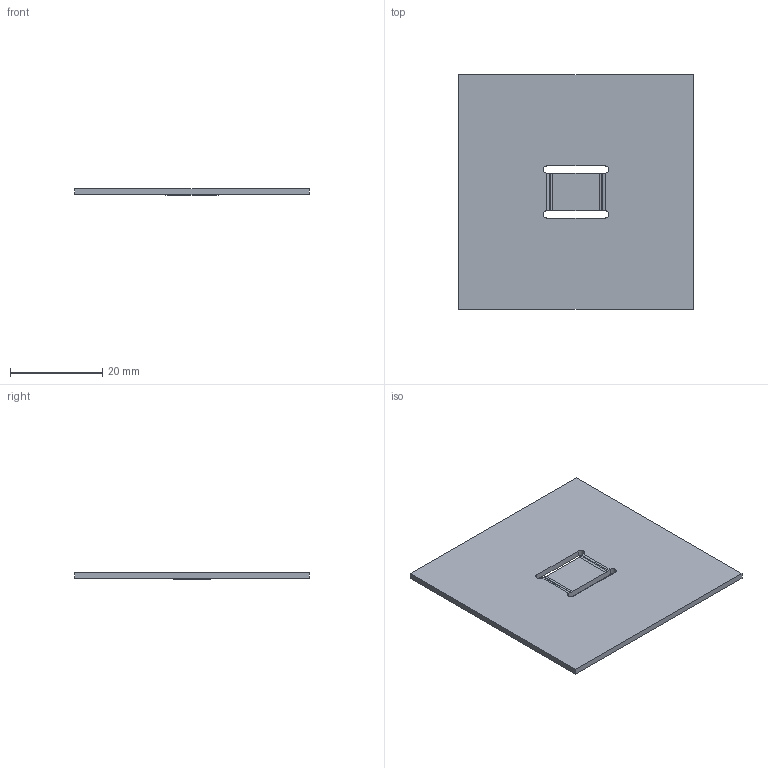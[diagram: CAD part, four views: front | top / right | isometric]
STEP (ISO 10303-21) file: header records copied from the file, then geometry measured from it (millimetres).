
FILE_DESCRIPTION((''),'1');
FILE_NAME('C:/Users/robertnolte/Desktop/WT# 824996-70.stp','2012-03-27T23:36:20',(''),(''),'Spatial Interop R21 SP3','Kubotek KeyCreator 2011 V10.5.0 (24766)',' ');
FILE_SCHEMA(('CONFIG_CONTROL_DESIGN'));
Length unit declared in the file: inch
Products named in the file (1): 1
Bounding box: 50.8 x 50.8 x 1.47 mm (x, y, z)
Volume: 3222.1 mm3; surface area: 5409.4 mm2
Topology: 1 solids, 1 shells, 28 faces, 76 edges, 48 vertices
Faces by surface type: plane 16, cylinder 12
Entity records: 932 total; most frequent: DIRECTION 158, CARTESIAN_POINT 153, ORIENTED_EDGE 152, EDGE_CURVE 76, AXIS2_PLACEMENT_3D 53, LINE 52, VECTOR 52, VERTEX_POINT 48
